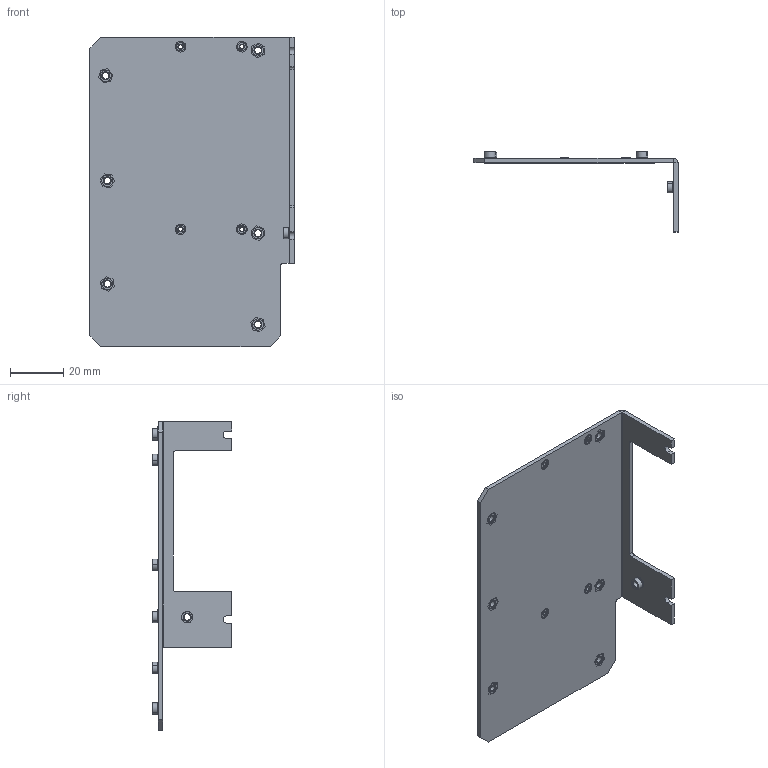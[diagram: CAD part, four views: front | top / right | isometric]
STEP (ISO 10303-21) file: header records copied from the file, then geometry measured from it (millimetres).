
FILE_DESCRIPTION (( 'STEP AP214' ), '1' );
FILE_NAME ('3010-EVM-G2-MAIN-BOARD-MOUNT.STEP', '2017-06-20T20:13:37', ( '' ), ( '' ), 'SwSTEP 2.0', 'SolidWorks 2016', '' );
FILE_SCHEMA (( 'AUTOMOTIVE_DESIGN' ));
Length unit declared in the file: millimetre
Products named in the file (4): 3010-EVM-G2-MAIN-BOARD-MOUNT; SO4-M3-4; MS04-M2-2
Assembly tree (12 placements, depth 2):
  3010-EVM-G2-MAIN-BOARD-MOUNT
    3010-EVM-G2-MAIN-BOARD-MOUNT
    SO4-M3-4  x7
    MS04-M2-2  x4
Bounding box: 76.6 x 30.01 x 116 mm (x, y, z)
Volume: 15608.1 mm3; surface area: 21184.8 mm2
Topology: 12 solids, 12 shells, 360 faces, 798 edges, 512 vertices
Faces by surface type: cylinder 167, plane 141, cone 44, bspline 8
Entity records: 3634 total; most frequent: DIRECTION 624, CARTESIAN_POINT 587, ORIENTED_EDGE 528, EDGE_CURVE 264, AXIS2_PLACEMENT_3D 239, VERTEX_POINT 170, VECTOR 146, LINE 146
